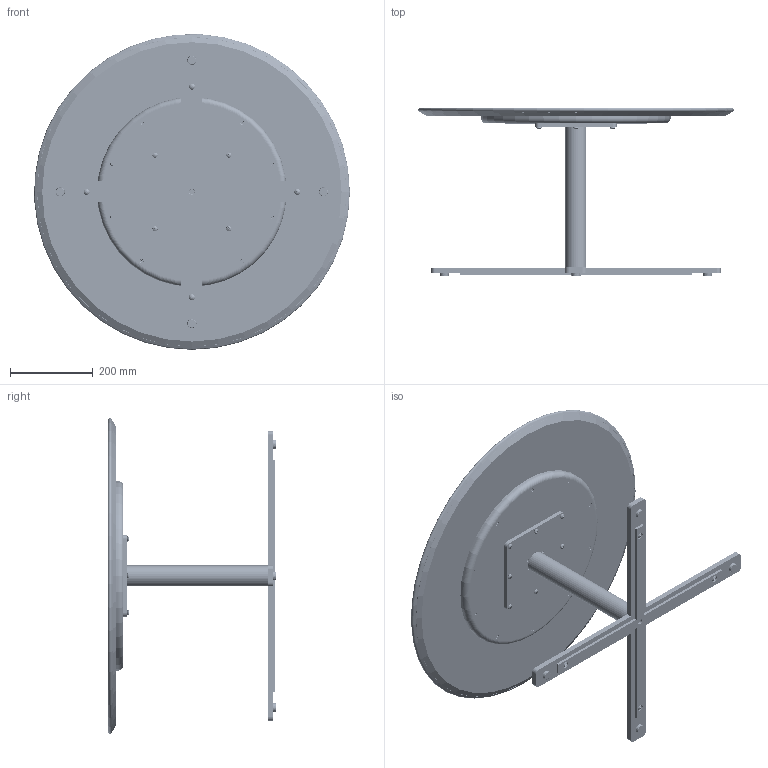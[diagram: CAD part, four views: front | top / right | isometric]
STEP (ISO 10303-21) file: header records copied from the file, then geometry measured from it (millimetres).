
FILE_DESCRIPTION(/* description */ ('CAPRI COFFEE TABLE , 30'''' DIA X 16''''H '),/* implementation_level */ '2;1');
FILE_NAME(/* name */ '3136.stp',/* time_stamp */ '2025-07-03T13:14:42-04:00',/* author */ ('emendoza'),/* organization */ (''),/* preprocessor_version */ 'ST-DEVELOPER v20',/* originating_system */ 'Autodesk Inventor 2025',/* authorisation */ '');
FILE_SCHEMA (('AUTOMOTIVE_DESIGN { 1 0 10303 214 3 1 1 }'));
Products named in the file (40): 3136; 3136-010; 3136-011; 3136-011_1; 3136-012; 3136-013; HD01-036; HD01-213; 3138-019; 3136-014; 3136-014_1; 3136-015; 3136-016; 3136-016_1; 3136-020; 3136-020_1; 3136-017; 3136-018; FA01-003; PA230; 3136-021; MEFA311; 3136-030; 3136-031; FA151; 95170-OS; 3136-040; 3136-041; 3136-042; 3136-044; 3136-045; 3136-046; 3136-047; 3136-043; 3136-043_1; 3136-043_2; 3136-043_3; 3136-043_4; 3136-043_5; FA012
Assembly tree (77 placements, depth 6):
  3136
    3136-010
      3136-011
        3136-011_1
        3136-012
        3136-013  x2
        HD01-036  x8
        HD01-213
      3138-019
      3136-014
        3136-014_1
        3136-015
        3136-016
        3136-016_1
      3136-020
        3136-020_1
        3136-017
        3136-018  x2
      FA01-003  x4
      PA230  x4
      3136-021
      MEFA311
    3136-030
      3136-031
      FA151  x8
    95170-OS  x8
    3136-040
      3136-041
        3136-042
          3136-044
            3136-045
            3136-046
            3136-047
          3136-043
          3136-043_1
          3136-043_2
          3136-043_3
          3136-043_4
          3136-043_5
    FA012  x10
Bounding box: 761.53 x 405.61 x 761.48 mm (x, y, z)
Volume: 12786991.8 mm3; surface area: 3588926.1 mm2
Topology: 95 solids, 95 shells, 2727 faces, 7330 edges, 4865 vertices
Faces by surface type: cylinder 1309, plane 940, cone 272, bspline 125, torus 69, sphere 12
Full cylindrical faces by diameter (mm): 2.812 x90, 3.489 x10, 4.166 x90, 4.7 x248, 4.711 x20, 4.762 x10, 6.35 x288, 7.144 x18, 7.747 x16, 7.938 x16, 8.433 x10, 10.162 x3, 11.112 x4, 12.497 x8, 12.7 x10, 13.494 x3, 14.287 x1, 14.554 x4, 15.088 x1, 15.875 x5, 19.05 x8, 19.844 x8, 22.225 x2, 25.4 x2, 31.75 x1, 33.337 x1, 47.752 x1, 50.8 x1, 76.2 x1, 457.2 x1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
Entity records: 39888 total; most frequent: CARTESIAN_POINT 20893, DIRECTION 3670, ORIENTED_EDGE 3600, EDGE_CURVE 1800, AXIS2_PLACEMENT_3D 1425, VERTEX_POINT 1189, EDGE_LOOP 871, LINE 820
